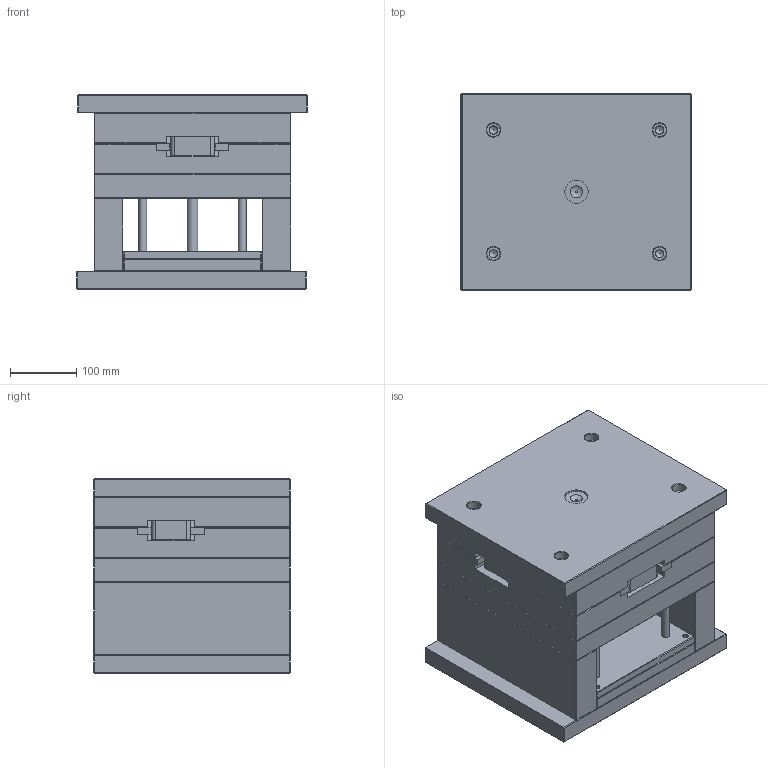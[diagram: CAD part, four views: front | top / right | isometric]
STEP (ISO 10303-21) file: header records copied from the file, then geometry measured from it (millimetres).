
FILE_DESCRIPTION( ( 'Unknown' ), '1' );
FILE_NAME( 'E:/Drawing Files Other/Dave/Complete Mobility/Scanner Mould/Scanner Mould Dave.stp', 'Unknown', ( 'Unknown' ), ( 'Unknown' ), 'PSStep 15.0.49', 'Unknown', ' ' );
FILE_SCHEMA( ( 'AUTOMOTIVE_DESIGN { 1 0 10303 214 1 1 1 1 }' ) );
Length unit declared in the file: millimetre
Products named in the file (42): Assem1; Side Slide Left; Side Slide Right; Slide Top; Slide Bottom; Fixed Half Clamping Plate; Fixed Half Die Plate; Heel Block 1; Heel Block 2; Heel Block 3; Heel Block 4; APD12; Sprue Bush; Moving Half Die Plate; Core; Support Plate; Riser; Moving Half Clamping Plate; Bottom Ejector Plate; Top Ejector Plate; Side Rail Left; Side Rail Right; Top Rail Right; Top Rail Left; Connector Rod; PB D12
Assembly tree (56 placements, depth 2):
  Assem1
    Side Slide Left
    Side Slide Left
    Side Slide Right
    Side Slide Right
    Slide Top
    Slide Top
    Slide Bottom
    Slide Bottom
    Fixed Half Clamping Plate
    Fixed Half Die Plate
    Fixed Half Die Plate
    Fixed Half Die Plate
    Fixed Half Die Plate
    Fixed Half Die Plate
    Fixed Half Die Plate
    Fixed Half Die Plate
    Fixed Half Die Plate
    Heel Block 1
    Heel Block 2
    Heel Block 3
    Heel Block 4
    APD12  x7
    Sprue Bush
    Moving Half Die Plate
    Moving Half Die Plate
    Moving Half Die Plate
    Moving Half Die Plate
    Core
    Core
    Core
    Support Plate
    Riser  x2
    Moving Half Clamping Plate
    Bottom Ejector Plate
    Top Ejector Plate
    Side Rail Left  x2
    Side Rail Right  x2
    Top Rail Right  x2
    Top Rail Left  x2
    Connector Rod  x2
    PB D12  x4
Bounding box: 347.5 x 296 x 292.16 mm (x, y, z)
Volume: 23622285.5 mm3; surface area: 2548331.1 mm2
Topology: 56 solids, 68 shells, 5309 faces, 13318 edges, 8294 vertices
Faces by surface type: cylinder 2018, plane 1991, torus 587, bspline 556, cone 156, sphere 1
Full cylindrical faces by diameter (mm): 5 x27, 6.5 x16, 6.647 x4, 6.8 x7, 8.5 x8, 10.2 x4, 10.5 x8, 12 x48, 12.5 x16, 13 x24, 14 x2, 14.42 x9, 15 x9, 16 x6, 16.5 x4, 17 x8, 18 x7, 20 x12, 22 x4, 30 x8, 35 x2, 36 x8
Entity records: 259138 total; most frequent: CARTESIAN_POINT 97073, DIRECTION 25009, ORIENTED_EDGE 24982, EDGE_CURVE 12491, AXIS2_PLACEMENT_3D 9444, VERTEX_POINT 7969, LINE 6121, VECTOR 6121
